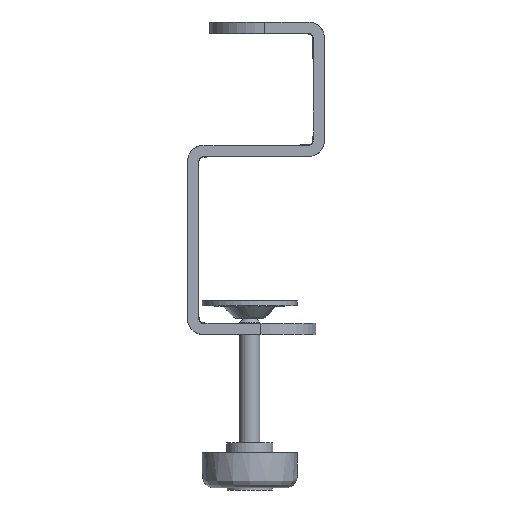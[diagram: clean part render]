
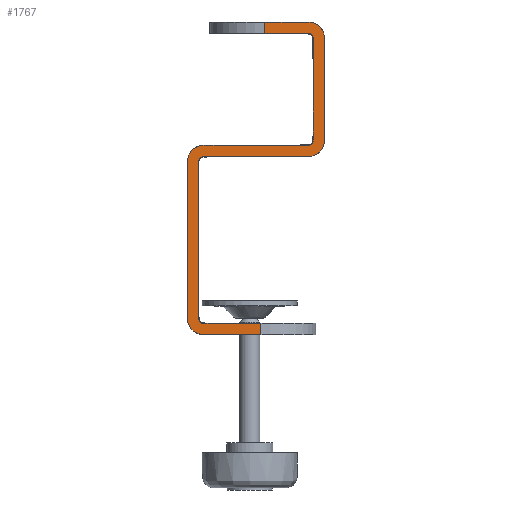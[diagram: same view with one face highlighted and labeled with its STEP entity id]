
A CAD part, front view. The second image highlights one B-rep face of the part: STEP entity #1767.
In plain terms, the highlighted planar face has unit normal (0, -1, 0).
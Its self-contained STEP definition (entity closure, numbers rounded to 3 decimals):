
#22 = CARTESIAN_POINT ( 'NONE',  ( 30., -22., 62.4 ) ) ;
#75 = CARTESIAN_POINT ( 'NONE',  ( 6., -22., 187.9 ) ) ;
#97 = CARTESIAN_POINT ( 'NONE',  ( 4.5, -22., 66.9 ) ) ;
#113 = DIRECTION ( 'NONE',  ( 0., 0., -1. ) ) ;
#132 = CARTESIAN_POINT ( 'NONE',  ( 6., -22., 125.15 ) ) ;
#175 = CARTESIAN_POINT ( 'NONE',  ( 4.5, -22., 64.65 ) ) ;
#178 = PLANE ( 'NONE',  #1289 ) ;
#247 = CARTESIAN_POINT ( 'NONE',  ( -25., -22., 138.4 ) ) ;
#268 = CARTESIAN_POINT ( 'NONE',  ( -7., -22., 66.9 ) ) ;
#284 = CARTESIAN_POINT ( 'NONE',  ( -18.5, -22., 133.9 ) ) ;
#303 = CARTESIAN_POINT ( 'NONE',  ( 4.5, -22., 66.9 ) ) ;
#408 = CARTESIAN_POINT ( 'NONE',  ( -18.5, -22., 138.4 ) ) ;
#419 = CARTESIAN_POINT ( 'NONE',  ( 6., -22., 183.4 ) ) ;
#443 = CARTESIAN_POINT ( 'NONE',  ( 2.5, -22., 133.9 ) ) ;
#448 = CARTESIAN_POINT ( 'NONE',  ( 23.5, -22., 183.4 ) ) ;
#452 = VERTEX_POINT ( 'NONE', #844 ) ;
#454 = CARTESIAN_POINT ( 'NONE',  ( 30., -22., 187.9 ) ) ;
#509 = DIRECTION ( 'NONE',  ( 0., 0., 1. ) ) ;
#588 = EDGE_CURVE ( 'NONE', #858, #730, #2125, .T. ) ;
#609 = CARTESIAN_POINT ( 'NONE',  ( -20.5, -22., 66.9 ) ) ;
#621 = CARTESIAN_POINT ( 'NONE',  ( 25.5, -22., 183.4 ) ) ;
#626 = EDGE_CURVE ( 'NONE', #1579, #2021, #650, .T. ) ;
#627 = CARTESIAN_POINT ( 'NONE',  ( -25., -22., 131.9 ) ) ;
#637 = CARTESIAN_POINT ( 'NONE',  ( -25., -22., 68.9 ) ) ;
#650 = LINE ( 'NONE', #1559, #1512 ) ;
#675 =( BOUNDED_CURVE ( )  B_SPLINE_CURVE ( 2, ( #419, #912, #448, #621, #1782, #1951, #946, #2117, #2088, #1388, #408, #247, #627, #1779, #637, #1800, #1626 ),
 .UNSPECIFIED., .F., .F. ) 
 B_SPLINE_CURVE_WITH_KNOTS ( ( 3, 2, 2, 2, 2, 2, 2, 2, 3 ),
 ( 0., 0.018, 0.021, 0.063, 0.066, 0.108, 0.119, 0.183, 0.193 ),
 .UNSPECIFIED. ) 
 CURVE ( )  GEOMETRIC_REPRESENTATION_ITEM ( )  RATIONAL_B_SPLINE_CURVE ( ( 1., 1., 1., 0.707, 1., 1., 1., 0.707, 1., 1., 1., 0.707, 1., 1., 1., 0.707, 1. ) ) 
 REPRESENTATION_ITEM ( '' )  );
#730 = VERTEX_POINT ( 'NONE', #303 ) ;
#770 = DIRECTION ( 'NONE',  ( 1., 0., 0. ) ) ;
#777 = CARTESIAN_POINT ( 'NONE',  ( -20.5, -22., 100.4 ) ) ;
#844 = CARTESIAN_POINT ( 'NONE',  ( 6., -22., 183.4 ) ) ;
#858 = VERTEX_POINT ( 'NONE', #75 ) ;
#912 = CARTESIAN_POINT ( 'NONE',  ( 14.75, -22., 183.4 ) ) ;
#943 = CARTESIAN_POINT ( 'NONE',  ( 30., -22., 133.9 ) ) ;
#946 = CARTESIAN_POINT ( 'NONE',  ( 25.5, -22., 140.4 ) ) ;
#984 = FACE_OUTER_BOUND ( 'NONE', #1580, .T. ) ;
#1039 = VECTOR ( 'NONE', #113, 1000. ) ;
#1053 = CARTESIAN_POINT ( 'NONE',  ( 4.5, -22., 62.4 ) ) ;
#1101 = CARTESIAN_POINT ( 'NONE',  ( -20.5, -22., 133.9 ) ) ;
#1164 = DIRECTION ( 'NONE',  ( 0., 0., -1. ) ) ;
#1226 = ORIENTED_EDGE ( 'NONE', *, *, #1503, .T. ) ;
#1241 = ORIENTED_EDGE ( 'NONE', *, *, #1390, .T. ) ;
#1248 = CARTESIAN_POINT ( 'NONE',  ( -18.5, -22., 66.9 ) ) ;
#1267 = CARTESIAN_POINT ( 'NONE',  ( 30., -22., 160.9 ) ) ;
#1289 = AXIS2_PLACEMENT_3D ( 'NONE', #22, #1496, #509 ) ;
#1388 = CARTESIAN_POINT ( 'NONE',  ( 2.5, -22., 138.4 ) ) ;
#1390 = EDGE_CURVE ( 'NONE', #452, #1579, #675, .T. ) ;
#1426 = LINE ( 'NONE', #175, #1938 ) ;
#1435 = CARTESIAN_POINT ( 'NONE',  ( 30., -22., 181.4 ) ) ;
#1496 = DIRECTION ( 'NONE',  ( 0., -1., 0. ) ) ;
#1503 = EDGE_CURVE ( 'NONE', #858, #452, #2041, .T. ) ;
#1512 = VECTOR ( 'NONE', #770, 1000. ) ;
#1559 = CARTESIAN_POINT ( 'NONE',  ( 2.5, -22., 62.4 ) ) ;
#1560 = EDGE_CURVE ( 'NONE', #730, #2021, #1426, .T. ) ;
#1579 = VERTEX_POINT ( 'NONE', #2000 ) ;
#1580 = EDGE_LOOP ( 'NONE', ( #1241, #1845, #1831, #1833, #1226 ) ) ;
#1609 = CARTESIAN_POINT ( 'NONE',  ( 6., -22., 187.9 ) ) ;
#1626 = CARTESIAN_POINT ( 'NONE',  ( -18.5, -22., 62.4 ) ) ;
#1767 = ADVANCED_FACE ( 'NONE', ( #984 ), #178, .T. ) ;
#1770 = CARTESIAN_POINT ( 'NONE',  ( -20.5, -22., 68.9 ) ) ;
#1779 = CARTESIAN_POINT ( 'NONE',  ( -25., -22., 100.4 ) ) ;
#1780 = CARTESIAN_POINT ( 'NONE',  ( 23.5, -22., 133.9 ) ) ;
#1782 = CARTESIAN_POINT ( 'NONE',  ( 25.5, -22., 181.4 ) ) ;
#1800 = CARTESIAN_POINT ( 'NONE',  ( -25., -22., 62.4 ) ) ;
#1817 = CARTESIAN_POINT ( 'NONE',  ( 14.75, -22., 187.9 ) ) ;
#1831 = ORIENTED_EDGE ( 'NONE', *, *, #1560, .F. ) ;
#1833 = ORIENTED_EDGE ( 'NONE', *, *, #588, .F. ) ;
#1845 = ORIENTED_EDGE ( 'NONE', *, *, #626, .T. ) ;
#1938 = VECTOR ( 'NONE', #1164, 1000. ) ;
#1951 = CARTESIAN_POINT ( 'NONE',  ( 25.5, -22., 160.9 ) ) ;
#2000 = CARTESIAN_POINT ( 'NONE',  ( -18.5, -22., 62.4 ) ) ;
#2021 = VERTEX_POINT ( 'NONE', #1053 ) ;
#2041 = LINE ( 'NONE', #132, #1039 ) ;
#2088 = CARTESIAN_POINT ( 'NONE',  ( 23.5, -22., 138.4 ) ) ;
#2107 = CARTESIAN_POINT ( 'NONE',  ( -20.5, -22., 131.9 ) ) ;
#2114 = CARTESIAN_POINT ( 'NONE',  ( 30., -22., 140.4 ) ) ;
#2117 = CARTESIAN_POINT ( 'NONE',  ( 25.5, -22., 138.4 ) ) ;
#2121 = CARTESIAN_POINT ( 'NONE',  ( 23.5, -22., 187.9 ) ) ;
#2125 =( BOUNDED_CURVE ( )  B_SPLINE_CURVE ( 2, ( #1609, #1817, #2121, #454, #1435, #1267, #2114, #943, #1780, #443, #284, #1101, #2107, #777, #1770, #609, #1248, #268, #97 ),
 .UNSPECIFIED., .F., .F. ) 
 B_SPLINE_CURVE_WITH_KNOTS ( ( 3, 2, 2, 2, 2, 2, 2, 2, 2, 3 ),
 ( 0., 0.017, 0.027, 0.068, 0.078, 0.12, 0.123, 0.185, 0.188, 0.211 ),
 .UNSPECIFIED. ) 
 CURVE ( )  GEOMETRIC_REPRESENTATION_ITEM ( )  RATIONAL_B_SPLINE_CURVE ( ( 1., 1., 1., 0.707, 1., 1., 1., 0.707, 1., 1., 1., 0.707, 1., 1., 1., 0.707, 1., 1., 1. ) ) 
 REPRESENTATION_ITEM ( '' )  );
